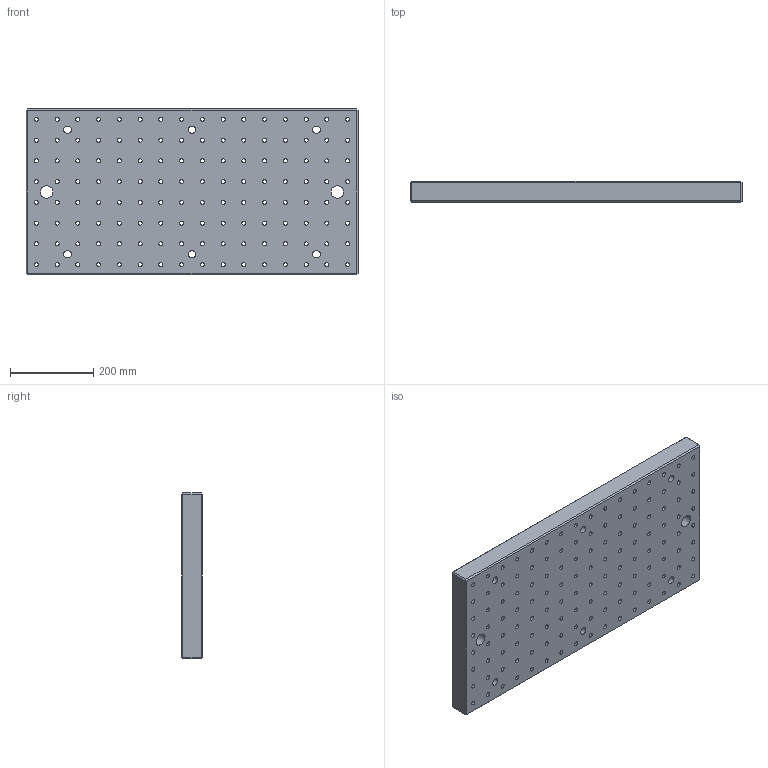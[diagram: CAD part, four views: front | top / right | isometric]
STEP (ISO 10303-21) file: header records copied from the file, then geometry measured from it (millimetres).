
FILE_DESCRIPTION((''),'2;1');
FILE_NAME('FG_WH_BASPL_RCGRDNP003','2026-05-19T09:58:07',('Admin'),(''),'CREO PARAMETRIC BY PTC INC, 2025010','CREO PARAMETRIC BY PTC INC, 2025010','');
FILE_SCHEMA(('CONFIG_CONTROL_DESIGN'));
Length unit declared in the file: millimetre
Products named in the file (1): FG_WH_BASPL_RCGRDNP003
Bounding box: 800 x 50 x 400 mm (x, y, z)
Volume: 15226382.2 mm3; surface area: 1090044 mm2
Topology: 1 solids, 129 shells, 1084 faces, 2700 edges, 1880 vertices
Faces by surface type: cylinder 796, plane 288
Entity records: 33919 total; most frequent: DIRECTION 6718, CARTESIAN_POINT 5665, ORIENTED_EDGE 4888, AXIS2_PLACEMENT_3D 2933, EDGE_CURVE 2700, VERTEX_POINT 1880, CIRCLE 1848, EDGE_LOOP 1618
